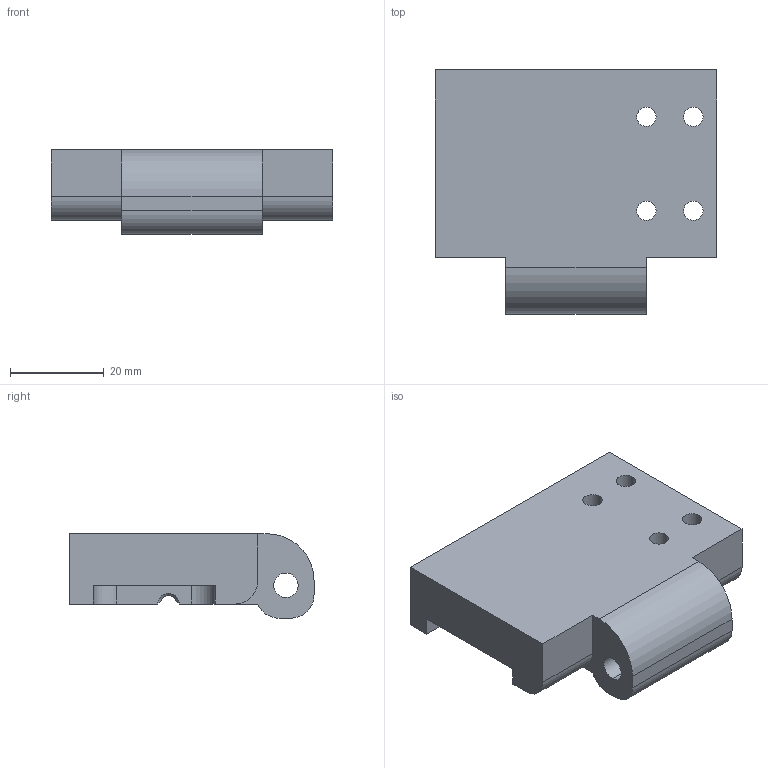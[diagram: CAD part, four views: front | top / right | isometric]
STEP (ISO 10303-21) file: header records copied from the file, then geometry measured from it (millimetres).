
FILE_DESCRIPTION (( 'STEP AP214' ), '1' );
FILE_NAME ('GZ26.06_V1上压块.STEP', '2021-03-31T06:59:23', ( '微软中国' ), ( 'Microsoft' ), 'SwSTEP 2.0', 'SolidWorks 2017', '' );
FILE_SCHEMA (( 'AUTOMOTIVE_DESIGN' ));
Length unit declared in the file: millimetre
Products named in the file (1): GZ26.06_V1奻揤輸
Bounding box: 60 x 52 x 18 mm (x, y, z)
Volume: 35845.7 mm3; surface area: 10438.5 mm2
Topology: 1 solids, 1 shells, 44 faces, 123 edges, 80 vertices
Faces by surface type: cylinder 21, plane 18, cone 5
Entity records: 1595 total; most frequent: CARTESIAN_POINT 275, DIRECTION 250, ORIENTED_EDGE 242, EDGE_CURVE 121, AXIS2_PLACEMENT_3D 90, VERTEX_POINT 80, VECTOR 70, LINE 70
